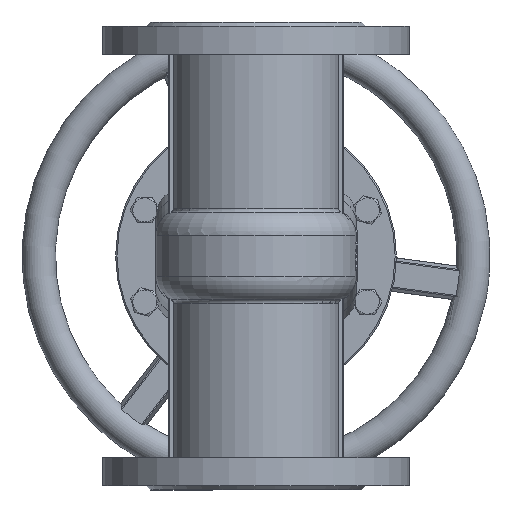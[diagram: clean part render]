
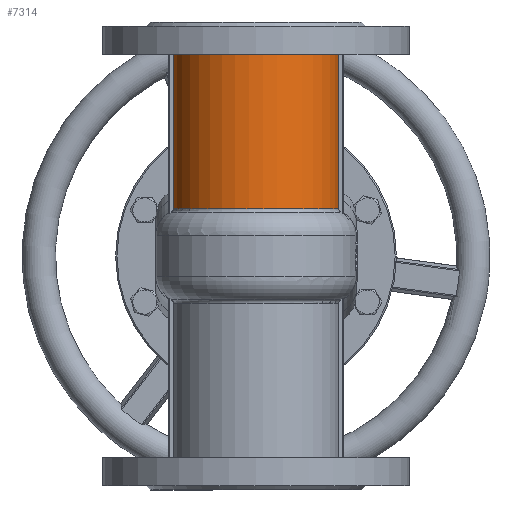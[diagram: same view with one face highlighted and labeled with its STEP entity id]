
A CAD part, front view. The second image highlights one B-rep face of the part: STEP entity #7314.
In plain terms, the highlighted cylindrical face has radius 62.5 mm (diameter 125 mm), a partial arc.
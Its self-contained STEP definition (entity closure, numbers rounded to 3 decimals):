
#7314=ADVANCED_FACE('',(#15769),#15771,.T.);
#15769=FACE_BOUND('',#15770,.T.);
#15770=EDGE_LOOP('',(#20568,#20569,#20570,#20571));
#15771=CYLINDRICAL_SURFACE('',#15772,62.5);
#15772=AXIS2_PLACEMENT_3D('',#15773,#15774,#15775);
#15773=CARTESIAN_POINT('',(0.,0.,95.));
#15774=DIRECTION('',(0.,0.,1.));
#15775=DIRECTION('',(1.,0.,0.));
#20568=ORIENTED_EDGE('',*,*,#22775,.F.);
#20569=ORIENTED_EDGE('',*,*,#22707,.F.);
#20570=ORIENTED_EDGE('',*,*,#22704,.T.);
#20571=ORIENTED_EDGE('',*,*,#22712,.T.);
#22704=EDGE_CURVE('',#26081,#26083,#26085,.T.);
#22707=EDGE_CURVE('',#26081,#26087,#26090,.T.);
#22712=EDGE_CURVE('',#26083,#26095,#26097,.T.);
#22775=EDGE_CURVE('',#26087,#26095,#26199,.T.);
#26081=VERTEX_POINT('',#51494);
#26083=VERTEX_POINT('',#51570);
#26085=CIRCLE('',#51649,62.5);
#26087=VERTEX_POINT('',#51654);
#26090=LINE('',#51661,#51662);
#26095=VERTEX_POINT('',#51676);
#26097=LINE('',#51680,#51681);
#26199=CIRCLE('',#52104,62.5);
#51494=CARTESIAN_POINT('',(-61.695,-10.,35.463));
#51570=CARTESIAN_POINT('',(61.695,-10.,35.463));
#51649=AXIS2_PLACEMENT_3D('',#51650,#51651,#51652);
#51650=CARTESIAN_POINT('',(0.,0.,35.463));
#51651=DIRECTION('',(0.,0.,1.));
#51652=DIRECTION('',(-0.987,-0.16,0.));
#51654=CARTESIAN_POINT('',(-61.695,-10.,151.));
#51661=CARTESIAN_POINT('',(-61.695,-10.,35.463));
#51662=VECTOR('',#51663,1.);
#51663=DIRECTION('',(0.,0.,1.));
#51676=CARTESIAN_POINT('',(61.695,-10.,151.));
#51680=CARTESIAN_POINT('',(61.695,-10.,35.463));
#51681=VECTOR('',#51682,1.);
#51682=DIRECTION('',(0.,0.,1.));
#52104=AXIS2_PLACEMENT_3D('',#52105,#52106,#52107);
#52105=CARTESIAN_POINT('',(0.,0.,151.));
#52106=DIRECTION('',(0.,0.,1.));
#52107=DIRECTION('',(-0.987,-0.16,0.));
